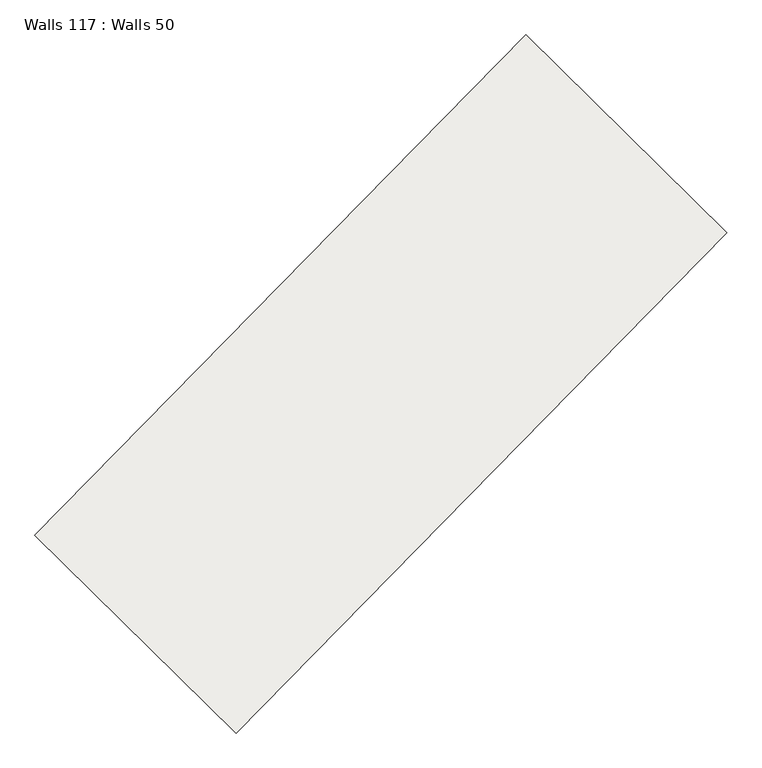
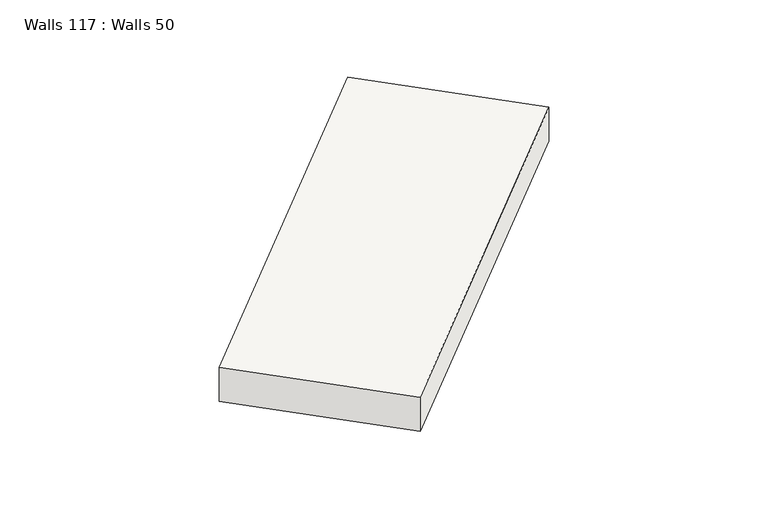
"""IFC4 building model written with IfcOpenShell, lengths in millimetres: slab geometry, Walls 117 : Walls 50."""

from ifc_helpers import new_model, si_unit, frame, origin, place, context, project, spatial, polyline, outline, extrude, source, transform, mapped, element, save


def walls_117_walls_50_87e96b9a(model_context):
    return source(origin(), model_context, "Body", "SweptSolid", [
        extrude(outline(polyline([(-350.0, 0.0), (350.0, 0.0), (270.0, -8699.9999995), (-430.0, -8699.9999995), (-350.0, 0.0)])), frame((-79238.4639687, -239947.6680748, 637290.0), z_axis=(-0.7137361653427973, 0.7004146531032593, 0.0), x_axis=(0.0, 0.0, 1.0)), (0.0, 0.0, 1.0), 3499.999995),
    ])


if __name__ == "__main__":
    model = new_model("IFC4")
    model_context = context("Model", 3, world=origin())
    ifc_project = project(units=[si_unit("LENGTHUNIT", "METRE", prefix="MILLI")], contexts=[model_context])
    site = spatial("IfcSite", under=ifc_project)
    building = spatial("IfcBuilding", under=site)
    placement = place(None, origin())
    walls_117_walls_50_shape = walls_117_walls_50_87e96b9a(model_context)
    element("IfcSlab", 1, ObjectType="Walls 117 : Walls 50", at=placement, inside=building, context=model_context, shape_type="MappedRepresentation", body=[
        mapped(walls_117_walls_50_shape, transform((0.0, 0.0, 0.0), x_axis=(1.0, 0.0, 0.0), y_axis=(0.0, 1.0, 0.0), z_axis=(0.0, 0.0, 1.0))),
    ])
    save(model, "model.ifc")
